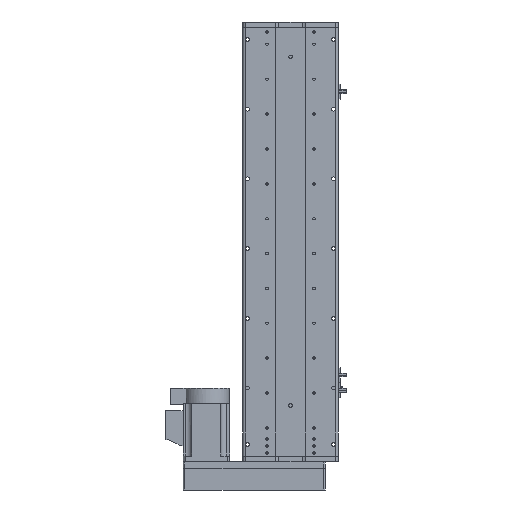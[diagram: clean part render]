
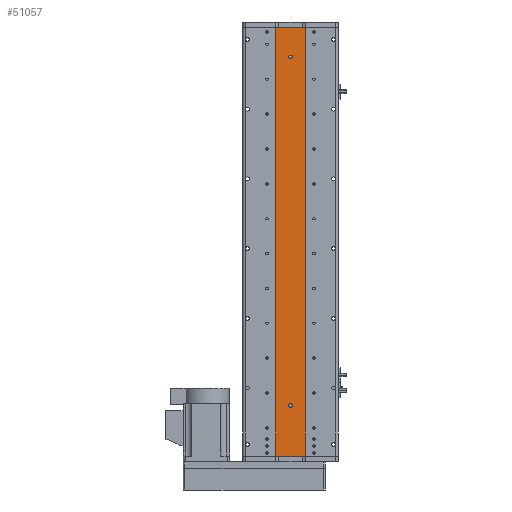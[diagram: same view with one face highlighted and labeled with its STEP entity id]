
A CAD part, front view. The second image highlights one B-rep face of the part: STEP entity #51057.
In plain terms, the highlighted planar face has unit normal (0, -1, 0).
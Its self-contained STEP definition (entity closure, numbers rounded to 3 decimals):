
#426 = PLANE ( 'NONE',  #16127 ) ;
#566 = EDGE_LOOP ( 'NONE', ( #38937, #40036 ) ) ;
#803 = VERTEX_POINT ( 'NONE', #51424 ) ;
#2542 = VERTEX_POINT ( 'NONE', #16711 ) ;
#2704 = DIRECTION ( 'NONE',  ( 0., -1., 0. ) ) ;
#4332 = EDGE_CURVE ( 'NONE', #50303, #44457, #38355, .T. ) ;
#4801 = CARTESIAN_POINT ( 'NONE',  ( 0., 1., -278.5 ) ) ;
#7971 = VECTOR ( 'NONE', #23365, 1000. ) ;
#8232 = EDGE_CURVE ( 'NONE', #44457, #50303, #50780, .T. ) ;
#8861 = EDGE_CURVE ( 'NONE', #803, #11039, #31026, .T. ) ;
#9792 = DIRECTION ( 'NONE',  ( 0., 1., 0. ) ) ;
#10230 = ORIENTED_EDGE ( 'NONE', *, *, #60105, .F. ) ;
#11039 = VERTEX_POINT ( 'NONE', #4801 ) ;
#12288 = DIRECTION ( 'NONE',  ( 0., -1., 0. ) ) ;
#13532 = CARTESIAN_POINT ( 'NONE',  ( 0., 1., -281.5 ) ) ;
#13612 = VERTEX_POINT ( 'NONE', #51604 ) ;
#13683 = ORIENTED_EDGE ( 'NONE', *, *, #53107, .F. ) ;
#14093 = FACE_BOUND ( 'NONE', #56689, .T. ) ;
#14284 = CARTESIAN_POINT ( 'NONE',  ( 25., 1., 368.5 ) ) ;
#15981 = VECTOR ( 'NONE', #53100, 1000. ) ;
#16127 = AXIS2_PLACEMENT_3D ( 'NONE', #28272, #9792, #42276 ) ;
#16152 = ORIENTED_EDGE ( 'NONE', *, *, #4332, .F. ) ;
#16711 = CARTESIAN_POINT ( 'NONE',  ( 25., 1., -368.5 ) ) ;
#18186 = CARTESIAN_POINT ( 'NONE',  ( 0., 1., 315.5 ) ) ;
#18237 = DIRECTION ( 'NONE',  ( 0., 0., -1. ) ) ;
#18692 = CARTESIAN_POINT ( 'NONE',  ( 25., 1., 368.5 ) ) ;
#18779 = DIRECTION ( 'NONE',  ( 0., 0., -1. ) ) ;
#18844 = DIRECTION ( 'NONE',  ( 1., 0., 0. ) ) ;
#19017 = AXIS2_PLACEMENT_3D ( 'NONE', #30490, #2704, #35134 ) ;
#20111 = CARTESIAN_POINT ( 'NONE',  ( 0., 1., 321.5 ) ) ;
#20269 = ORIENTED_EDGE ( 'NONE', *, *, #27263, .T. ) ;
#20300 = EDGE_CURVE ( 'NONE', #28873, #2542, #22942, .T. ) ;
#21327 = LINE ( 'NONE', #32735, #44588 ) ;
#21764 = LINE ( 'NONE', #18692, #7971 ) ;
#22942 = LINE ( 'NONE', #55835, #46186 ) ;
#23026 = CIRCLE ( 'NONE', #51099, 3. ) ;
#23365 = DIRECTION ( 'NONE',  ( 1., 0., 0. ) ) ;
#25393 = VERTEX_POINT ( 'NONE', #14284 ) ;
#26381 = CARTESIAN_POINT ( 'NONE',  ( 0., 1., 318.5 ) ) ;
#27263 = EDGE_CURVE ( 'NONE', #13612, #28873, #21327, .T. ) ;
#28272 = CARTESIAN_POINT ( 'NONE',  ( 25., 1., 368.5 ) ) ;
#28342 = LINE ( 'NONE', #48400, #15981 ) ;
#28873 = VERTEX_POINT ( 'NONE', #52100 ) ;
#30490 = CARTESIAN_POINT ( 'NONE',  ( 0., 1., 318.5 ) ) ;
#31026 = CIRCLE ( 'NONE', #59321, 3. ) ;
#31041 = DIRECTION ( 'NONE',  ( 0., 0., -1. ) ) ;
#32735 = CARTESIAN_POINT ( 'NONE',  ( -25., 1., 368.5 ) ) ;
#35134 = DIRECTION ( 'NONE',  ( 0., 0., -1. ) ) ;
#38355 = CIRCLE ( 'NONE', #19017, 3. ) ;
#38937 = ORIENTED_EDGE ( 'NONE', *, *, #8861, .F. ) ;
#40036 = ORIENTED_EDGE ( 'NONE', *, *, #49848, .F. ) ;
#40102 = CARTESIAN_POINT ( 'NONE',  ( 0., 1., -281.5 ) ) ;
#42276 = DIRECTION ( 'NONE',  ( 0., 0., 1. ) ) ;
#43445 = EDGE_LOOP ( 'NONE', ( #44048, #10230, #13683, #20269 ) ) ;
#44048 = ORIENTED_EDGE ( 'NONE', *, *, #20300, .T. ) ;
#44457 = VERTEX_POINT ( 'NONE', #20111 ) ;
#44588 = VECTOR ( 'NONE', #18779, 1000. ) ;
#44817 = DIRECTION ( 'NONE',  ( 0., 0., -1. ) ) ;
#46068 = DIRECTION ( 'NONE',  ( 0., -1., 0. ) ) ;
#46186 = VECTOR ( 'NONE', #18844, 1000. ) ;
#48400 = CARTESIAN_POINT ( 'NONE',  ( 25., 1., 368.5 ) ) ;
#49848 = EDGE_CURVE ( 'NONE', #11039, #803, #23026, .T. ) ;
#50303 = VERTEX_POINT ( 'NONE', #18186 ) ;
#50780 = CIRCLE ( 'NONE', #58522, 3. ) ;
#51057 = ADVANCED_FACE ( 'NONE', ( #51191, #14093, #52652 ), #426, .F. ) ;
#51099 = AXIS2_PLACEMENT_3D ( 'NONE', #13532, #46068, #18237 ) ;
#51191 = FACE_BOUND ( 'NONE', #566, .T. ) ;
#51424 = CARTESIAN_POINT ( 'NONE',  ( 0., 1., -284.5 ) ) ;
#51604 = CARTESIAN_POINT ( 'NONE',  ( -25., 1., 368.5 ) ) ;
#52100 = CARTESIAN_POINT ( 'NONE',  ( -25., 1., -368.5 ) ) ;
#52652 = FACE_OUTER_BOUND ( 'NONE', #43445, .T. ) ;
#53100 = DIRECTION ( 'NONE',  ( 0., 0., -1. ) ) ;
#53107 = EDGE_CURVE ( 'NONE', #13612, #25393, #21764, .T. ) ;
#55835 = CARTESIAN_POINT ( 'NONE',  ( 25., 1., -368.5 ) ) ;
#56689 = EDGE_LOOP ( 'NONE', ( #16152, #59528 ) ) ;
#58522 = AXIS2_PLACEMENT_3D ( 'NONE', #26381, #58913, #31041 ) ;
#58913 = DIRECTION ( 'NONE',  ( 0., -1., 0. ) ) ;
#59321 = AXIS2_PLACEMENT_3D ( 'NONE', #40102, #12288, #44817 ) ;
#59528 = ORIENTED_EDGE ( 'NONE', *, *, #8232, .F. ) ;
#60105 = EDGE_CURVE ( 'NONE', #25393, #2542, #28342, .T. ) ;
